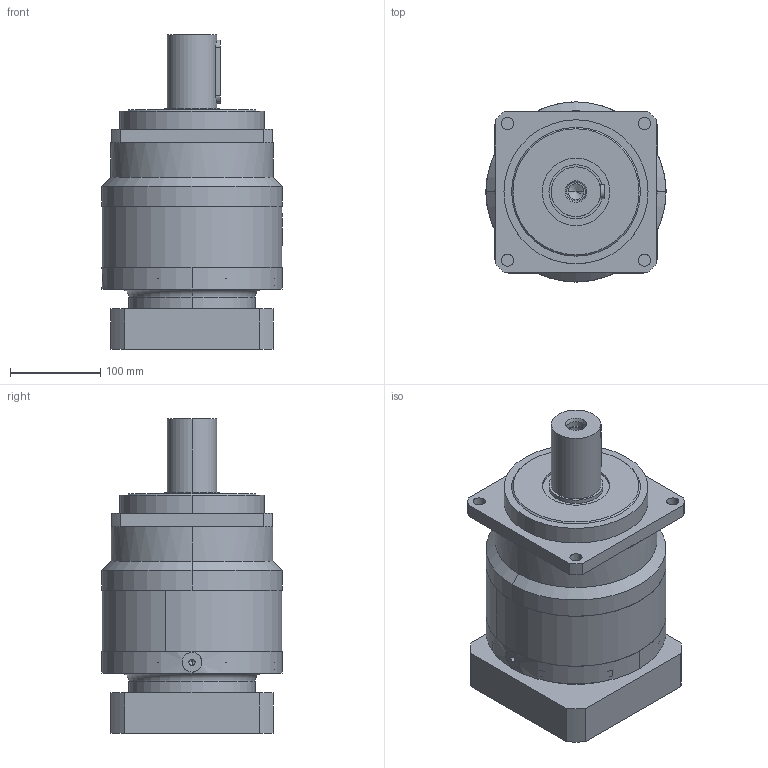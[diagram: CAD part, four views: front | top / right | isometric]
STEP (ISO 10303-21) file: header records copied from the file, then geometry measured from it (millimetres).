
FILE_DESCRIPTION (( 'STEP AP203' ), '1' );
FILE_NAME ('PLM180-L2-35-114.3-200.STEP', '2022-07-05T07:00:29', ( 'Windows User' ), ( 'P R C' ), 'SwSTEP 2.0', 'SolidWorks 2016', '' );
FILE_SCHEMA (( 'CONFIG_CONTROL_DESIGN' ));
Length unit declared in the file: millimetre
Products named in the file (7): PLM180 内齿圈; PLM180-L2-35-114.3-200; PLM180 奻裔啣_D1-55 D2-160 D5-215 D6-13.5 L1-82 L2-20 L3-15 L4-105 A1-179 S1-6 S2-70 S3-10 S4-42 B-16 H-59 C-M20 梓袧; PLM180 狟裔啣_D9-200 D3-35 B-10x8 梓袧; 囀鞠褒蹟佪-M10x35; 邧埴瑩 16x10x70; PLM180 一级连接板 180匡 114.3x10 200xM12 45L 目录_D4-114.3 D7-200 D8-M12 A2-180 L5-10 L6-83(45+38) R-117 标准
Assembly tree (6 placements, depth 2):
  PLM180-L2-35-114.3-200
    PLM180 奻裔啣_D1-55 D2-160 D5-215 D6-13.5 L1-82 L2-20 L3-15 L4-105 A1-179 S1-6 S2-70 S3-10 S4-42 B-16 H-59 C-M20 梓袧
    PLM180 狟裔啣_D9-200 D3-35 B-10x8 梓袧
    囀鞠褒蹟佪-M10x35
    邧埴瑩 16x10x70
    PLM180 一级连接板 180匡 114.3x10 200xM12 45L 目录_D4-114.3 D7-200 D8-M12 A2-180 L5-10 L6-83(45+38) R-117 标准
    PLM180 内齿圈
Bounding box: 200 x 200 x 349.5 mm (x, y, z)
Volume: 7271729.6 mm3; surface area: 517805.2 mm2
Topology: 6 solids, 6 shells, 1039 faces, 2703 edges, 1761 vertices
Faces by surface type: plane 593, cylinder 216, bspline 172, cone 52, torus 6
Entity records: 39355 total; most frequent: CARTESIAN_POINT 14068, ORIENTED_EDGE 5318, DIRECTION 4609, EDGE_CURVE 2659, VERTEX_POINT 1761, LINE 1641, VECTOR 1641, AXIS2_PLACEMENT_3D 1484
